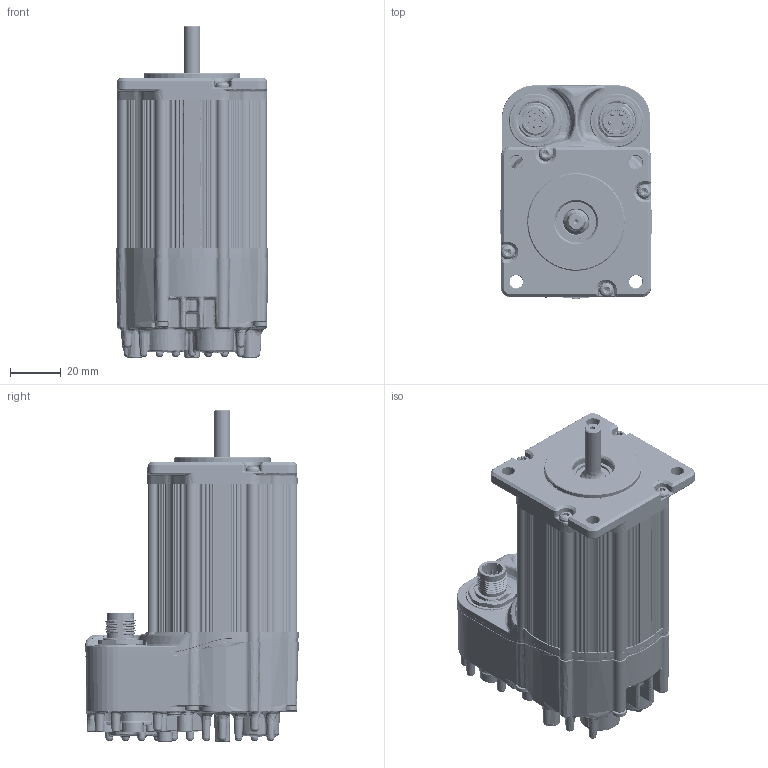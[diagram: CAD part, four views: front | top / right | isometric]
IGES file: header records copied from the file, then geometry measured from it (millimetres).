
Start section: SolidWorks IGES file using analytic representation for surfaces
Global section: file name: C:\TeknicPDM\EtherPath CPM-S\EtherPath CPM-S Customer Files\CPM-S Customer Models\CPMS 232xQ.igs; native system: SolidWorks 2020; preprocessor: SolidWorks 2020; author: mike_berezny; date: 241007.171924; units: inch
Bounding box: 60.26 x 84.12 x 130.8 mm (x, y, z)
Surface area: 118824.2 mm2 (no closed solid volume)
Topology: 0 solids, 0 shells, 11875 faces, 105188 edges, 104440 vertices
Faces by surface type: bspline 6204, revolution 5671
